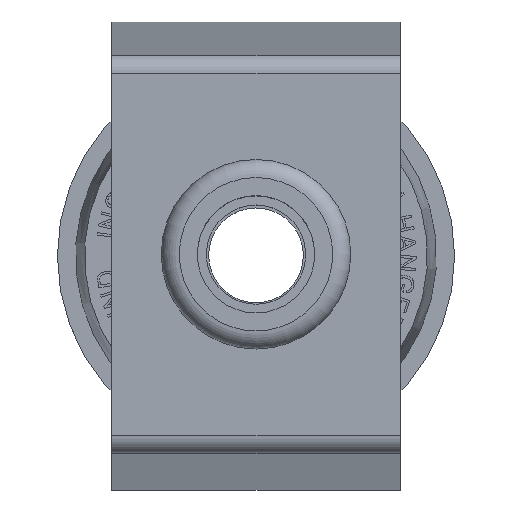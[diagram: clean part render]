
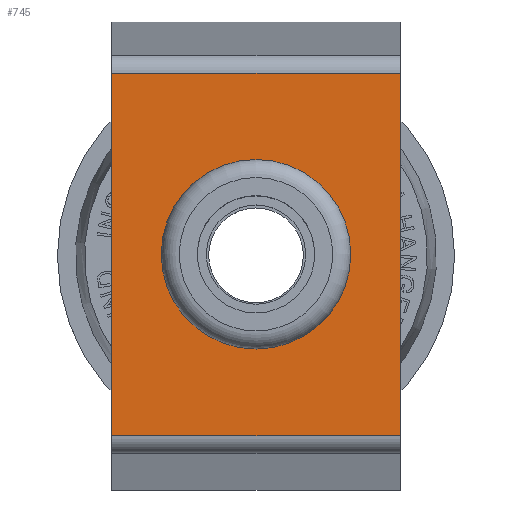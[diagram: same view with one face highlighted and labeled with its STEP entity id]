
A CAD part, top view. The second image highlights one B-rep face of the part: STEP entity #745.
In plain terms, the highlighted planar face has unit normal (0, 0, 1) as drawn and (0, 1, 0) by its records, which use the part's own axes.
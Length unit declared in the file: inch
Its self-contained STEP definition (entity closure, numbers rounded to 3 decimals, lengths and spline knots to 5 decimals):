
#180=CARTESIAN_POINT('',(0.95604,4.70352,-1.0));
#181=VERTEX_POINT('',#180);
#182=CARTESIAN_POINT('',(0.42479,4.70352,-1.0));
#183=DIRECTION('',(0.0,-1.0,0.0));
#184=DIRECTION('',(1.0,0.0,0.0));
#185=AXIS2_PLACEMENT_3D('',#182,#183,#184);
#186=CIRCLE('',#185,0.53125);
#187=EDGE_CURVE('',#181,#181,#186,.T.);
#684=CARTESIAN_POINT('',(1.67929,4.70352,-2.0));
#685=VERTEX_POINT('',#684);
#693=CARTESIAN_POINT('',(1.67929,4.70352,0.0));
#694=VERTEX_POINT('',#693);
#695=CARTESIAN_POINT('',(1.67929,4.70352,0.0));
#696=DIRECTION('',(0.0,0.0,-1.0));
#697=VECTOR('',#696,2.0);
#698=LINE('',#695,#697);
#699=EDGE_CURVE('',#694,#685,#698,.T.);
#712=CARTESIAN_POINT('',(1.67929,4.70352,0.0));
#713=DIRECTION('',(0.0,1.0,0.0));
#714=DIRECTION('',(0.0,0.0,1.0));
#715=AXIS2_PLACEMENT_3D('',#712,#713,#714);
#716=PLANE('',#715);
#717=CARTESIAN_POINT('',(-0.8298,4.70352,-2.0));
#718=VERTEX_POINT('',#717);
#719=CARTESIAN_POINT('',(1.67929,4.70352,-2.0));
#720=DIRECTION('',(-1.0,0.0,0.0));
#721=VECTOR('',#720,2.50909);
#722=LINE('',#719,#721);
#723=EDGE_CURVE('',#685,#718,#722,.T.);
#724=ORIENTED_EDGE('',*,*,#723,.T.);
#725=CARTESIAN_POINT('',(-0.8298,4.70352,0.0));
#726=VERTEX_POINT('',#725);
#727=CARTESIAN_POINT('',(-0.8298,4.70352,0.0));
#728=DIRECTION('',(0.0,0.0,-1.0));
#729=VECTOR('',#728,2.0);
#730=LINE('',#727,#729);
#731=EDGE_CURVE('',#726,#718,#730,.T.);
#732=ORIENTED_EDGE('',*,*,#731,.F.);
#733=CARTESIAN_POINT('',(1.67929,4.70352,0.0));
#734=DIRECTION('',(-1.0,0.0,0.0));
#735=VECTOR('',#734,2.50909);
#736=LINE('',#733,#735);
#737=EDGE_CURVE('',#694,#726,#736,.T.);
#738=ORIENTED_EDGE('',*,*,#737,.F.);
#739=ORIENTED_EDGE('',*,*,#699,.T.);
#740=EDGE_LOOP('',(#724,#732,#738,#739));
#741=FACE_OUTER_BOUND('',#740,.T.);
#742=ORIENTED_EDGE('',*,*,#187,.T.);
#743=EDGE_LOOP('',(#742));
#744=FACE_BOUND('',#743,.T.);
#745=ADVANCED_FACE('',(#741,#744),#716,.T.);
